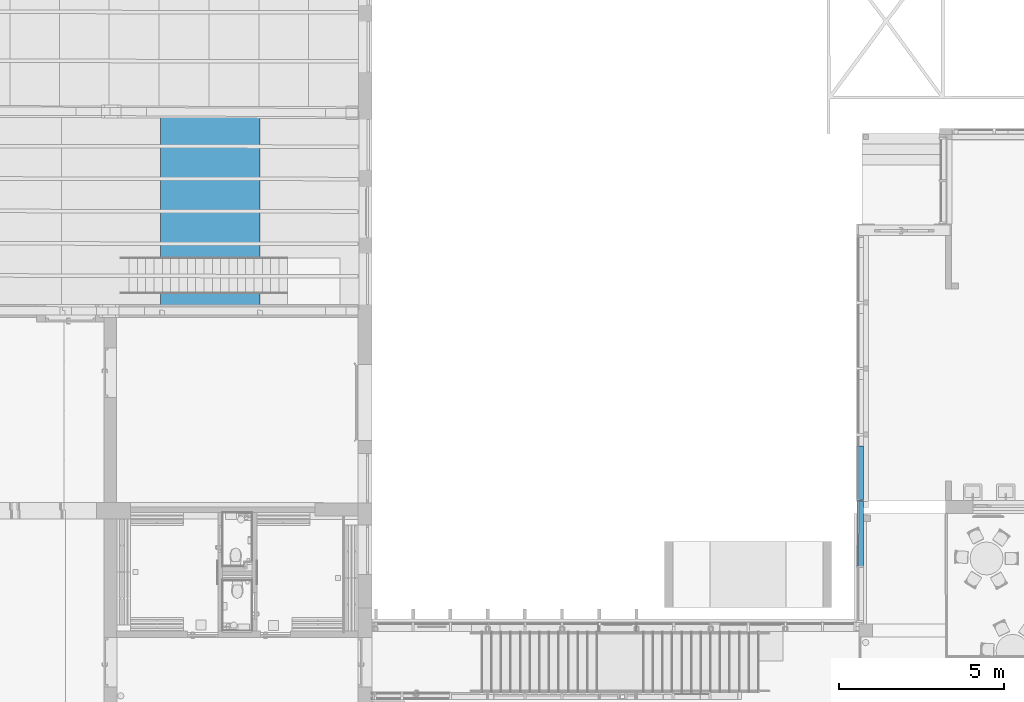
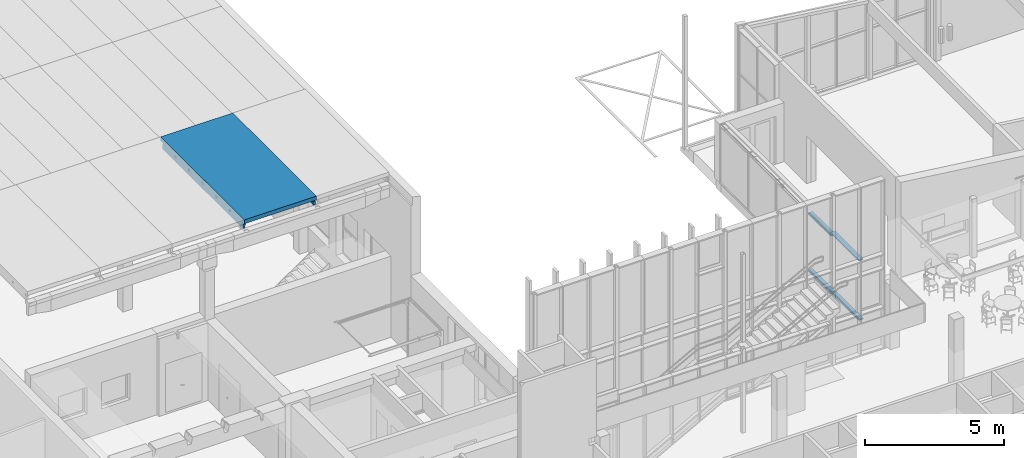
# One storey, part 38 of 301: 4 members, 1 beam, 2 elements without a shape of their own.
"""IFC2X3 building model written with IfcOpenShell, lengths in millimetres."""

from ifc_helpers import new_model, entity, si_unit, converted_unit, derived_unit, money_unit, direction, frame, origin_with_axes, place, context, subcontext, project, spatial, faceted_brep, material, type_object, element, aggregate, save


model = new_model("IFC2X3")

# Units and contexts
model_context = context("Model", 3, precision=0.01, world=origin_with_axes(), true_north=direction((0.0, 1.0)))
body_context = subcontext(model_context, "Body", "Model", "MODEL_VIEW")
ifc_project = project(units=[si_unit("LENGTHUNIT", "METRE", prefix="MILLI"), si_unit("AREAUNIT", "SQUARE_METRE"), si_unit("VOLUMEUNIT", "CUBIC_METRE"), converted_unit("PLANEANGLEUNIT", "DEGREE", entity("IfcPlaneAngleMeasure", 0.0174532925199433), si_unit("PLANEANGLEUNIT", "RADIAN"), dimensions=[0, 0, 0, 0, 0, 0, 0]), money_unit("EUR"), converted_unit("TIMEUNIT", "Year", entity("IfcTimeMeasure", 31557600.0), si_unit("TIMEUNIT", "SECOND"), dimensions=[0, 0, 1, 0, 0, 0, 0]), si_unit("MASSUNIT", "GRAM", prefix="KILO"), si_unit("THERMODYNAMICTEMPERATUREUNIT", "DEGREE_CELSIUS"), si_unit("LUMINOUSINTENSITYUNIT", "LUMEN"), si_unit("ENERGYUNIT", "JOULE", prefix="MEGA"), derived_unit("THERMALCONDUCTANCEUNIT", [(si_unit("POWERUNIT", "WATT"), 1), (si_unit("LENGTHUNIT", "METRE"), -1), (si_unit("THERMODYNAMICTEMPERATUREUNIT", "KELVIN"), -1)]), derived_unit("SPECIFICHEATCAPACITYUNIT", [(si_unit("ENERGYUNIT", "JOULE"), 1), (si_unit("MASSUNIT", "GRAM", prefix="KILO"), -1), (si_unit("THERMODYNAMICTEMPERATUREUNIT", "KELVIN"), -1)]), derived_unit("MASSDENSITYUNIT", [(si_unit("MASSUNIT", "GRAM", prefix="KILO"), 1), (si_unit("VOLUMEUNIT", "CUBIC_METRE"), -1)])], contexts=[model_context])

# Site, building, storey
site_placement = place(None, frame((0.0, 0.0, 8650.0), z_axis=(0.0, 0.0, 1.0), x_axis=(1.0, 0.0, 0.0)))
site = spatial("IfcSite", under=ifc_project, at=site_placement, Name="43301:001:0844", CompositionType="ELEMENT")
building_placement = place(site_placement, origin_with_axes())
building = spatial("IfcBuilding", under=site, at=building_placement, Name="Kuressaare Ametikooli tuulikute mehaanikute õppekorpus", CompositionType="ELEMENT")
storey_placement = place(building_placement, origin_with_axes())
storey = spatial("IfcBuildingStorey", under=building, at=storey_placement, Name="1.korrus", CompositionType="ELEMENT", Elevation=0.0)

# Curtain wall, members
curtain_wall_type = type_object("IfcCurtainWallType", Name="Curtain Wall Type", PredefinedType="NOTDEFINED")
curtain_wall_1_placement = place(storey_placement, frame((118335.7921529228, 29489.81776331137, 34.99994345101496), z_axis=(0.0, 0.0, 1.0), x_axis=(1.0, 0.0, 0.0)))
curtain_wall_1 = element("IfcCurtainWall", 1, at=curtain_wall_1_placement, inside=storey, type_object=curtain_wall_type, Name="KF-1.2")
ifc_material_1 = material(Name="Aluminium")
member_type_1 = type_object("IfcMemberType", Name="Boundary Frame 50 x 200", PredefinedType="NOTDEFINED")
member_1_placement = place(curtain_wall_1_placement, frame((3.771415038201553, 2824.557290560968, 0.0), z_axis=(-0.001335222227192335, -0.9999991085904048, 0.0), x_axis=(0.0, 0.0, 1.0)))
member_1 = element("IfcMember", 2, at=member_1_placement, type_object=member_type_1, material=ifc_material_1, context=body_context, shape_type="Brep", body=[
    faceted_brep([(5.000000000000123, -20.00000000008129, 1990.000000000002), (5.000000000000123, 19.99999999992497, 1989.999999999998), (25.00000000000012, 19.99999999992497, 1989.999999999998), (25.00000000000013, 39.99999999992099, 1990.000000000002), (-24.99999999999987, 39.99999999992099, 1990.000000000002), (-24.99999999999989, -160.0000000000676, 1989.999999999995), (25.00000000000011, -160.0000000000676, 1989.999999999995), (25.00000000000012, -20.00000000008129, 1990.000000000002), (4.999999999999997, -19.99999999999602, 5.000000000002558), (5.000000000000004, 19.99999999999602, 5.000000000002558), (25.0, 19.99999999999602, 24.99999999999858), (25.00000000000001, 40.00000000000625, 25.00000000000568), (-24.99999999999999, 40.00000000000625, -24.99999999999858), (-25.00000000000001, -160.0000000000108, -25.00000000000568), (24.99999999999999, -159.9999999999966, 24.99999999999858), (25.0, -19.99999999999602, 24.99999999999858)], [[[0, 1, 2, 3, 4, 5, 6, 7]], [[1, 0, 8, 9]], [[10, 2, 1, 9]], [[2, 10, 11, 3]], [[4, 3, 11, 12]], [[5, 4, 12, 13]], [[6, 5, 13, 14]], [[15, 7, 6, 14]], [[0, 7, 15, 8]], [[8, 15, 14, 13, 12, 11, 10, 9]]]),
])
member_2_placement = place(curtain_wall_1_placement, frame((1.114322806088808, 834.5590644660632, 2610.000013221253), z_axis=(0.001335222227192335, 0.9999991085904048, 0.0), x_axis=(0.0, 0.0, -1.0)))
member_2 = element("IfcMember", 3, at=member_2_placement, type_object=member_type_1, material=ifc_material_1, context=body_context, shape_type="Brep", body=[
    faceted_brep([(5.000000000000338, -19.99999999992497, 1984.999999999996), (5.000000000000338, 20.00000000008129, 1984.999999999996), (24.99999999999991, 20.00000000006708, 1965.0), (24.99999999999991, 40.00000000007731, 1964.999999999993), (-24.99999999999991, 40.00000000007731, 2014.999999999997), (-24.99999999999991, -159.9999999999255, 2015.000000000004), (24.99999999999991, -159.9999999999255, 1965.0), (24.99999999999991, -19.99999999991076, 1965.0), (4.999999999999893, -19.99999999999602, -9.212186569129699e-08), (4.999999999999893, 19.99999999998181, -9.211831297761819e-08), (24.99999999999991, 19.99999999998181, -9.211831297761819e-08), (24.99999999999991, 39.99999999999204, -9.212186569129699e-08), (-24.99999999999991, 39.99999999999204, -9.212186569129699e-08), (-24.99999999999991, -159.9999999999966, -9.211476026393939e-08), (24.99999999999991, -159.9999999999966, -9.211476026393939e-08), (24.99999999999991, -19.99999999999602, -9.212186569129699e-08)], [[[0, 1, 2, 3, 4, 5, 6, 7]], [[1, 0, 8, 9]], [[10, 2, 1, 9]], [[2, 10, 11, 3]], [[12, 4, 3, 11]], [[13, 5, 4, 12]], [[14, 6, 5, 13]], [[15, 7, 6, 14]], [[0, 7, 15, 8]], [[8, 15, 14, 13, 12, 11, 10, 9]]]),
])
aggregate(curtain_wall_1, [member_1, member_2])

curtain_wall_2_placement = place(storey_placement, frame((118344.5490393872, 39517.28066569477, -20.0), z_axis=(0.0, 0.0, 1.0), x_axis=(1.0, 0.0, 0.0)))
curtain_wall_2 = element("IfcCurtainWall", 4, at=curtain_wall_2_placement, inside=storey, type_object=curtain_wall_type, Name="KF-XX")
ifc_material_2 = material(Name="Metall - Alumiinium")
member_3_placement = place(curtain_wall_2_placement, frame((0.0, -5550.01966278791, 0.0), z_axis=(0.0, -1.0, 0.0), x_axis=(0.0, 0.0, 1.0)))
member_3 = element("IfcMember", 5, at=member_3_placement, type_object=member_type_1, material=ifc_material_2, context=body_context, shape_type="Brep", body=[
    faceted_brep([(35.00000000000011, -10.00000000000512, 1652.647103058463), (35.00000000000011, 10.00000000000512, 1652.647103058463), (50.00000000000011, 10.00000000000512, 1652.647103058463), (50.00000000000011, 49.99999999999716, 1652.647103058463), (0.0, 49.99999999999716, 1652.647103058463), (0.0, 0.0, 1652.647103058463), (0.0, -150.0000000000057, 1652.647103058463), (50.0000000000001, -150.0000000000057, 1652.647103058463), (50.00000000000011, -10.00000000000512, 1652.647103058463), (35.0, -10.00000000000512, 0.0), (35.0, 10.00000000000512, 0.0), (50.0, 10.00000000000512, 0.0), (50.0, 49.99999999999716, 0.0), (0.0, 49.99999999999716, 0.0), (0.0, 0.0, 0.0), (0.0, -150.0000000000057, 0.0), (49.99999999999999, -150.0000000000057, 0.0), (50.0, -10.00000000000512, 0.0)], [[[0, 1, 2, 3, 4, 5, 6, 7, 8]], [[1, 0, 9, 10]], [[11, 2, 1, 10]], [[2, 11, 12, 3]], [[13, 4, 3, 12]], [[14, 5, 4, 13]], [[15, 6, 5, 14]], [[16, 7, 6, 15]], [[17, 8, 7, 16]], [[0, 8, 17, 9]], [[9, 17, 16, 15, 14, 13, 12, 11, 10]]]),
])
member_type_2 = type_object("IfcMemberType", Name="Transom Frame 50 x 200", PredefinedType="NOTDEFINED")
member_4_placement = place(curtain_wall_2_placement, frame((0.0, -5550.01966278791, 2530.000039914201), z_axis=(0.0, -1.0, 0.0), x_axis=(0.0, 0.0, 1.0)))
member_4 = element("IfcMember", 6, at=member_4_placement, type_object=member_type_2, material=ifc_material_2, context=body_context, shape_type="Brep", body=[
    faceted_brep([(-9.999999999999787, -10.00000000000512, 1627.647103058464), (-24.99999999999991, -10.00000000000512, 1627.647103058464), (-24.99999999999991, -150.0000000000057, 1627.647103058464), (24.99999999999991, -150.0000000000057, 1627.647103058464), (24.99999999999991, -10.00000000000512, 1627.647103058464), (10.00000000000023, -10.00000000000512, 1627.647103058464), (10.00000000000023, 10.00000000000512, 1627.647103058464), (24.99999999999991, 10.00000000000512, 1627.647103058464), (24.99999999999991, 49.99999999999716, 1627.647103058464), (-24.99999999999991, 49.99999999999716, 1627.647103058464), (-24.99999999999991, 10.00000000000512, 1627.647103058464), (-9.999999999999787, 10.00000000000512, 1627.647103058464), (-9.999999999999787, -10.00000000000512, 0.0), (-24.99999999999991, -10.00000000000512, 0.0), (-24.99999999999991, -150.0000000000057, 0.0), (24.99999999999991, -150.0000000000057, 0.0), (24.99999999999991, -10.00000000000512, 0.0), (9.999999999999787, -10.00000000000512, 0.0), (9.999999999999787, 10.00000000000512, 0.0), (24.99999999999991, 10.00000000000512, 0.0), (24.99999999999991, 49.99999999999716, 0.0), (-24.99999999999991, 49.99999999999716, 0.0), (-24.99999999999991, 10.00000000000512, 0.0), (-9.999999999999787, 10.00000000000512, 0.0)], [[[0, 1, 2, 3, 4, 5, 6, 7, 8, 9, 10, 11]], [[1, 0, 12, 13]], [[1, 13, 14, 2]], [[3, 2, 14, 15]], [[4, 3, 15, 16]], [[4, 16, 17, 5]], [[5, 17, 18, 6]], [[7, 6, 18, 19]], [[19, 20, 8, 7]], [[9, 8, 20, 21]], [[22, 10, 9, 21]], [[11, 10, 22, 23]], [[0, 11, 23, 12]], [[23, 22, 21, 20, 19, 18, 17, 16, 15, 14, 13, 12]]]),
])
aggregate(curtain_wall_2, [member_3, member_4])

# Beam
ifc_material_3 = material(Name="GENEERILINE - KONSTRUKTRIOON")
beam_type = type_object("IfcBeamType", Name="Precast Double Tee 4 3000 x 440", PredefinedType="NOTDEFINED")
beam_placement = place(storey_placement, frame((98758.75644683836, 44085.15228588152, 7100.0), z_axis=(0.0, 0.0, 1.0), x_axis=(-1.0, 0.0, 0.0)))
element("IfcBeam", 7, at=beam_placement, inside=storey, type_object=beam_type, material=ifc_material_3, context=body_context, shape_type="Brep", body=[
    faceted_brep([(1500.0, 196.1455597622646, -180.532857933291), (1500.0, 164.4729010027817, -221.5483087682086), (1500.0, 138.8807642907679, -266.6089685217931), (1500.0, 138.8802391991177, -440.0001340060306), (1500.0, 5922.625349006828, -440.0001340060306), (1500.0, 5922.624826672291, -267.5188171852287), (1500.0, 5897.032776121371, -222.4581574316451), (1500.0, 5865.360223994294, -181.4427065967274), (1500.0, 5854.397650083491, -169.9098486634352), (1500.0, 6017.898995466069, -169.9098486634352), (1500.0, 6017.898995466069, 0.0), (1500.0, 0.0, 0.0), (1500.0, 0.0, -168.9999999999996), (1500.0, 207.1081705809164, -168.9999999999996), (1500.0, 1119.311111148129, -169.8331663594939), (1500.0, 1111.112253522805, -175.4075010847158), (1500.0, 1106.537634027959, -184.2033640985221), (1500.0, 1085.797648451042, -271.7806445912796), (1500.0, 1045.797594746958, -271.7806445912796), (1500.0, 1025.056647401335, -184.2031688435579), (1500.0, 1020.482007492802, -175.4074260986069), (1500.0, 1012.283216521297, -169.8331663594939), (1500.0, 2090.529502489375, -175.4075010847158), (1500.0, 2085.954882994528, -184.2033640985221), (1500.0, 2065.214897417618, -271.7806445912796), (1500.0, 2025.214843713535, -271.7806445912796), (1500.0, 2004.473896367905, -184.2031688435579), (1500.0, 1999.899256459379, -175.4074260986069), (1500.0, 1991.700465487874, -169.8331663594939), (1500.0, 2098.728360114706, -169.8331663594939), (1500.0, 3066.743085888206, -184.2033640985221), (1500.0, 3046.003100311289, -271.7806445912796), (1500.0, 3006.003046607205, -271.7806445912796), (1500.0, 2985.262099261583, -184.2031688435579), (1500.0, 2980.687459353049, -175.4074260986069), (1500.0, 2972.488668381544, -169.8331663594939), (1500.0, 3079.516563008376, -169.8331663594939), (1500.0, 3071.317705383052, -175.4075010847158), (1500.0, 4025.75527918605, -271.7806445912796), (1500.0, 3985.755225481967, -271.7806445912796), (1500.0, 3965.014278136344, -184.2031688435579), (1500.0, 3960.439638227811, -175.4074260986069), (1500.0, 3952.240847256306, -169.8331663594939), (1500.0, 4059.268741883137, -169.8331663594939), (1500.0, 4051.069884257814, -175.4075010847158), (1500.0, 4046.495264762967, -184.2033640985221), (1500.0, 4960.455377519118, -271.7806445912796), (1500.0, 4939.71438396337, -184.2031688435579), (1500.0, 4935.139733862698, -175.4074260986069), (1500.0, 4926.940924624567, -169.8331663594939), (1500.0, 5033.969057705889, -169.8331663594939), (1500.0, 5025.77018181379, -175.4075010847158), (1500.0, 5021.195552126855, -184.2033640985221), (1500.0, 5000.455520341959, -271.7806445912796), (1365.910046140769, 196.6001059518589, -180.532857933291), (1371.752641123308, 193.8469931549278, -184.0724353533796), (1384.30381979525, 181.3927414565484, -200.1453415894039), (1390.327470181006, 166.3273237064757, -219.628309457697), (1390.629556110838, 164.8436515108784, -221.5483087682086), (1397.719241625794, 139.2274817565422, -266.6089685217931), (1424.999996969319, 139.1344787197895, -440.0001340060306), (1424.999996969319, 5922.78893984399, -440.0001340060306), (1397.862394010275, 5922.847610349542, -267.5188171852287), (1390.772708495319, 5897.271023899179, -222.4581574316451), (1384.303819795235, 5880.054948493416, -200.1453415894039), (1371.752641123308, 5867.670662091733, -184.0724353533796), (1367.411885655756, 5865.649426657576, -181.4427065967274), (1390.327470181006, 5895.086757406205, -219.628309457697), (1354.310838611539, 5858.133558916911, -173.505793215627), (1334.723493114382, 5854.758153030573, -169.9098486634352), (1334.723493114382, 6017.898995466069, -169.9098486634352), (1334.253143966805, 6017.898995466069, -169.8234995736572), (1127.640522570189, 6017.898995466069, -169.9098486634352), (-1500.0, 6017.898995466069, -169.9098486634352), (-1500.0, 6017.898995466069, 0.0), (-1500.0, 0.0, 0.0), (-1500.0, 0.0, -168.9999999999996), (-1500.0, 217.2777509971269, -168.9999999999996), (-1370.461247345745, 205.876021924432, -180.532857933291), (-1370.286968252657, 206.0605877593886, -180.338069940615), (-1354.45241394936, 213.517067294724, -172.4372542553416), (-1336.819669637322, 214.8806931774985, -170.9398142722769), (1334.253143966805, 206.887247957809, -169.8234995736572), (1354.310838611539, 203.3190341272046, -173.505793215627), (-1500.0, 206.3151401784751, -180.532857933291), (1334.253120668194, 1119.582713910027, -169.8331663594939), (1354.310838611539, 1114.148063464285, -173.505793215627), (1357.449888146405, 1111.345844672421, -175.4075010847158), (1371.752641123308, 1106.815882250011, -184.0724353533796), (1371.854882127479, 1106.74762029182, -184.2033640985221), (1384.30381979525, 1102.951853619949, -200.1453415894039), (1390.327470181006, 1098.328041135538, -219.628309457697), (1398.532934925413, 1085.963918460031, -271.7806445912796), (1398.532934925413, 1045.963864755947, -271.7806445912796), (1371.854729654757, 1025.266633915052, -184.2031688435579), (1390.327470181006, 1033.62608881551, -219.628309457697), (1384.30381979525, 1029.021814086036, -200.1453415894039), (1371.752641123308, 1025.198807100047, -184.0724353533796), (1357.44976437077, 1020.71559884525, -175.4074260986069), (1354.310838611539, 1017.923762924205, -173.505793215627), (1334.253143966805, 1012.554819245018, -169.8331663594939), (-1500.0, 1124.227090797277, -169.8331663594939), (-1500.0, 1017.199196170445, -169.8331663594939), (1371.752641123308, 2086.233131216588, -184.0724353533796), (1371.854882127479, 2086.164869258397, -184.2033640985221), (1357.449888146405, 2090.763093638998, -175.4075010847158), (1390.327470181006, 2077.745290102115, -219.628309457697), (1398.532934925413, 2065.381167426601, -271.7806445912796), (1384.30381979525, 2082.369102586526, -200.1453415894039), (1398.532934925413, 2025.381113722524, -271.7806445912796), (1390.327470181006, 2013.043337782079, -219.628309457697), (1384.30381979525, 2008.439063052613, -200.1453415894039), (1371.854729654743, 2004.683882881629, -184.2031688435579), (1357.44976437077, 2000.13284781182, -175.4074260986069), (1371.752641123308, 2004.616056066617, -184.0724353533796), (1334.253124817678, 1991.972068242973, -169.8331663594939), (1354.310838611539, 1997.341011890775, -173.505793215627), (1334.253120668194, 2098.999962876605, -169.8331663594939), (-1500.0, 1996.616445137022, -169.8331663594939), (-1500.0, 2103.644339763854, -169.8331663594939), (1354.310838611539, 2093.565312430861, -173.505793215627), (1398.532934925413, 3046.169370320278, -271.7806445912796), (1371.854882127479, 3066.953072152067, -184.2033640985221), (1384.30381979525, 3063.157305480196, -200.1453415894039), (1390.327470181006, 3058.533492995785, -219.628309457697), (1398.532934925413, 3006.169316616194, -271.7806445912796), (1390.327470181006, 2993.831540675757, -219.628309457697), (1384.30381979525, 2989.227265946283, -200.1453415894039), (1371.854729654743, 2985.4720857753, -184.2031688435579), (1371.752641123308, 2985.404258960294, -184.0724353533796), (1357.44976437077, 2980.921050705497, -175.4074260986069), (1354.310838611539, 2978.129214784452, -173.505793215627), (1334.253125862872, 2972.76027113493, -169.8331663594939), (-1500.0, 2977.404648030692, -169.8331663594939), (-1500.0, 3084.432542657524, -169.8331663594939), (1334.253120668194, 3079.788165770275, -169.8331663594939), (1357.449888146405, 3071.551296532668, -175.4075010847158), (1354.310838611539, 3074.353515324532, -173.505793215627), (1371.752641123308, 3067.021334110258, -184.0724353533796), (1398.532934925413, 4025.92154919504, -271.7806445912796), (1398.532934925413, 3985.921495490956, -271.7806445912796), (1390.327470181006, 3973.583719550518, -219.628309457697), (1384.30381979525, 3968.979444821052, -200.1453415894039), (1371.854729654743, 3965.224264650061, -184.2031688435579), (1371.752641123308, 3965.156437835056, -184.0724353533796), (1357.44976437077, 3960.673229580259, -175.4074260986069), (1354.310838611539, 3957.881393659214, -173.505793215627), (1334.253127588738, 3952.512450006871, -169.8331663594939), (-1500.0, 3957.156826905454, -169.8331663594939), (-1500.0, 4064.184721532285, -169.8331663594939), (1334.253120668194, 4059.540344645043, -169.8331663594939), (1354.310838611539, 4054.105694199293, -173.505793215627), (1357.449888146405, 4051.303475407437, -175.4075010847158), (1371.752641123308, 4046.773512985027, -184.0724353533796), (1371.854882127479, 4046.705251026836, -184.2033640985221), (1384.30381979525, 4042.909484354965, -200.1453415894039), (1390.327470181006, 4038.285671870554, -219.628309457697), (1390.327470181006, 4948.397205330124, -219.628309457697), (1384.30381979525, 4943.799146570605, -200.1453415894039), (1371.854729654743, 4940.056825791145, -184.2031688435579), (1398.532934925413, 4960.726527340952, -271.7806445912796), (1371.752641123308, 4939.989104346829, -184.0724353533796), (1357.44976437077, 4935.520669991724, -175.4074260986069), (1354.310838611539, 4932.73207233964, -173.505793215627), (1334.253130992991, 4927.383848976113, -169.8331663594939), (-1500.0, 4934.957806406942, -169.8331663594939), (-1500.0, 5041.985939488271, -169.8331663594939), (1334.253113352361, 5034.411982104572, -169.8331663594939), (1354.310838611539, 5028.956587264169, -173.505793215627), (1357.449888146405, 5026.151117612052, -175.4075010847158), (1371.752641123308, 5021.606361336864, -184.0724353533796), (1371.854882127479, 5021.537993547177, -184.2033640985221), (1384.303819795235, 5017.729350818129, -200.1453415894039), (1390.327470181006, 5013.099301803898, -219.628309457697), (1398.532934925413, 5000.726670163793, -271.7806445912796), (-1336.819669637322, 5039.922187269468, -170.9398142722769), (-1336.819669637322, 5861.56438778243, -170.9398142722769), (1127.640522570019, 5855.209844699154, -169.9098486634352), (-1500.0, 5860.94128330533, -169.9098486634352), (-1500.0, 5871.903857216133, -181.4427065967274), (-1500.0, 5903.576409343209, -222.4581574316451), (-1500.0, 5929.168459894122, -267.5188171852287), (-1500.0, 5929.168982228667, -440.0001340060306), (-1500.0, 149.0498196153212, -440.0001340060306), (-1500.0, 149.0503447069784, -266.6089685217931), (-1500.0, 174.6424814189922, -221.5483087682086), (-1500.0, 1025.39798714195, -175.4074260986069), (-1500.0, 1029.972627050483, -184.2031688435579), (-1500.0, 1050.713574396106, -271.7806445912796), (-1500.0, 1090.71362810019, -271.7806445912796), (-1500.0, 1111.453613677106, -184.2033640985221), (-1500.0, 1116.028233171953, -175.4075010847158), (-1500.0, 2009.389876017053, -184.2031688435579), (-1500.0, 2030.130823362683, -271.7806445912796), (-1500.0, 2070.130877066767, -271.7806445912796), (-1500.0, 2090.870862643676, -184.2033640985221), (-1500.0, 2095.445482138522, -175.4075010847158), (-1500.0, 2004.815236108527, -175.4074260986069), (-1500.0, 3010.919026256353, -271.7806445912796), (-1500.0, 3050.919079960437, -271.7806445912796), (-1500.0, 3071.659065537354, -184.2033640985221), (-1500.0, 3076.2336850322, -175.4075010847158), (-1500.0, 2985.603439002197, -175.4074260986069), (-1500.0, 2990.178078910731, -184.2031688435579), (-1500.0, 4030.671258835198, -271.7806445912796), (-1500.0, 4051.411244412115, -184.2033640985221), (-1500.0, 4055.985863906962, -175.4075010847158), (-1500.0, 3965.355617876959, -175.4074260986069), (-1500.0, 3969.930257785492, -184.2031688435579), (-1500.0, 3990.671205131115, -271.7806445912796), (-1500.0, 5029.21243390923, -184.2033640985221), (-1500.0, 5033.787063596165, -175.4075010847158), (-1500.0, 4943.156615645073, -175.4074260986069), (-1500.0, 4947.731265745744, -184.2031688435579), (-1500.0, 4968.472259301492, -271.7806445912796), (-1500.0, 5008.472402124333, -271.7806445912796), (-1370.286968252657, 1027.749844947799, -180.338069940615), (-1382.086528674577, 195.8818158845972, -193.5261847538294), (-1382.086528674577, 1031.987374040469, -193.5261847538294), (-1373.745117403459, 1029.765738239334, -184.2031688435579), (-1360.405134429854, 1025.169238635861, -175.4074260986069), (-1354.45241394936, 1020.790864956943, -172.4372542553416), (-1336.819669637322, 1018.559490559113, -170.9398142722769), (-1388.184278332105, 183.0741399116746, -210.1386333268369), (-1390.259892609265, 174.2704778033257, -221.5483087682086), (-1360.405284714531, 1115.799484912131, -175.4075010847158), (-1354.45241394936, 1120.158436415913, -172.4372542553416), (-1336.819669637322, 1122.332010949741, -170.9398142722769), (-1336.819669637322, 1997.97673952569, -170.9398142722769), (-1354.45241394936, 2000.208113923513, -172.4372542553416), (-1360.40513442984, 2004.586487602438, -175.4074260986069), (-1360.405284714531, 2095.216733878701, -175.4075010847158), (-1354.45241394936, 2099.575685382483, -172.4372542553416), (-1336.819669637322, 2101.749259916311, -170.9398142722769), (-1336.819669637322, 2978.764942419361, -170.9398142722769), (-1354.45241394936, 2980.99631681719, -172.4372542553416), (-1360.40513442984, 2985.374690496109, -175.4074260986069), (-1354.45241394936, 3080.36388827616, -172.4372542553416), (-1336.819669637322, 3082.537462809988, -170.9398142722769), (-1360.405284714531, 3076.004936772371, -175.4075010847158), (-1354.45241394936, 3960.748495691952, -172.4372542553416), (-1360.40513442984, 3965.12686937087, -175.4074260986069), (-1336.819669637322, 3958.517121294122, -170.9398142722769), (-1336.819669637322, 4062.28964168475, -170.9398142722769), (-1360.405284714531, 4055.757115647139, -175.4075010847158), (-1354.45241394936, 4060.116067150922, -172.4372542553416), (-1360.40513442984, 4942.783577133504, -175.4074260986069), (-1336.819669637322, 4936.149435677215, -170.9398142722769), (-1354.45241394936, 4938.399040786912, -172.4372542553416), (-1360.405284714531, 5033.414025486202, -175.4075010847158), (-1354.45241394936, 5037.766833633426, -172.4372542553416), (-1354.45241394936, 5863.026242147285, -172.4372542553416), (-1371.275299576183, 5871.623081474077, -181.4427065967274), (-1370.286968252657, 5870.570911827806, -180.338069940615), (-1388.184278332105, 5893.819252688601, -210.1386333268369), (-1390.425409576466, 5903.337404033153, -222.4581574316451), (-1382.086528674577, 5880.977648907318, -193.5261847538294), (-1398.622710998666, 5928.94733462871, -267.5188171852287), (-1430.000000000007, 5929.016297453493, -440.0001340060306), (-1430.000000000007, 148.8125294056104, -440.0001340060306), (-1398.457194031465, 148.7061287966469, -266.6089685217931), (-1388.184278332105, 1035.931687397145, -210.1386333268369), (-1399.398009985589, 1050.548721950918, -271.7806445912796), (-1399.398009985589, 1090.548775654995, -271.7806445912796), (-1388.184278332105, 1105.128414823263, -210.1386333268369), (-1382.086528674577, 1109.052570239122, -193.5261847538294), (-1373.745292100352, 1111.246725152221, -184.2033640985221), (-1370.286968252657, 1113.251349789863, -180.338069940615), (-1373.745117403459, 2009.182987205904, -184.2031688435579), (-1382.086528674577, 2011.404623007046, -193.5261847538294), (-1388.184278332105, 2015.348936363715, -210.1386333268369), (-1399.398009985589, 2029.965970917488, -271.7806445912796), (-1399.398009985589, 2069.966024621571, -271.7806445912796), (-1388.184278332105, 2084.545663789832, -210.1386333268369), (-1382.086528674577, 2088.469819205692, -193.5261847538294), (-1373.745292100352, 2090.663974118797, -184.2033640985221), (-1370.286968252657, 2092.66859875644, -180.338069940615), (-1370.286968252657, 2007.167093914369, -180.338069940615), (-1399.398009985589, 3010.754173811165, -271.7806445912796), (-1399.398009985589, 3050.754227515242, -271.7806445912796), (-1388.184278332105, 3065.33386668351, -210.1386333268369), (-1382.086528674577, 3069.258022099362, -193.5261847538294), (-1373.745292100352, 3071.452177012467, -184.2033640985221), (-1370.286968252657, 3073.45680165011, -180.338069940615), (-1370.286968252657, 2987.955296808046, -180.338069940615), (-1373.745117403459, 2989.971190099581, -184.2031688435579), (-1382.086528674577, 2992.192825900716, -193.5261847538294), (-1388.184278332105, 2996.137139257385, -210.1386333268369), (-1382.086528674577, 4049.010200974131, -193.5261847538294), (-1373.745292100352, 4051.204355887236, -184.2033640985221), (-1399.398009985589, 4030.50640639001, -271.7806445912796), (-1388.184278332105, 4045.086045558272, -210.1386333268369), (-1370.286968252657, 4053.208980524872, -180.338069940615), (-1370.286968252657, 3967.707475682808, -180.338069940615), (-1373.745117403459, 3969.723368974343, -184.2031688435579), (-1388.184278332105, 3975.889318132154, -210.1386333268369), (-1399.398009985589, 3990.506352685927, -271.7806445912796), (-1382.086528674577, 3971.945004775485, -193.5261847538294), (-1373.745292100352, 5028.875044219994, -184.2033640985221), (-1370.286968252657, 5030.876098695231, -180.338069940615), (-1373.745117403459, 4947.393875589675, -184.2031688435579), (-1370.286968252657, 4945.374403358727, -180.338069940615), (-1399.398009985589, 4968.203421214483, -271.7806445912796), (-1382.086528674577, 4949.624138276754, -193.5261847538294), (-1388.184278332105, 4953.574763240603, -210.1386333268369), (-1399.398009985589, 5008.203564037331, -271.7806445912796), (-1388.184278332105, 5022.77164483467, -210.1386333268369), (-1382.086528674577, 5026.68950617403, -193.5261847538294)], [[[0, 1, 2, 3, 4, 5, 6, 7, 8, 9, 10, 11, 12, 13], [14, 15, 16, 17, 18, 19, 20, 21], [22, 23, 24, 25, 26, 27, 28, 29], [30, 31, 32, 33, 34, 35, 36, 37], [38, 39, 40, 41, 42, 43, 44, 45], [46, 47, 48, 49, 50, 51, 52, 53]], [[1, 0, 54, 55, 56, 57, 58]], [[1, 58, 59, 2]], [[2, 59, 60, 3]], [[61, 4, 3, 60]], [[61, 62, 5, 4]], [[62, 63, 6, 5]], [[64, 65, 66, 7, 6, 63, 67]], [[8, 7, 66, 68, 69]], [[69, 70, 9, 8]], [[71, 72, 73, 74, 10, 9, 70]], [[75, 11, 10, 74]], [[75, 76, 12, 11]], [[13, 12, 76, 77]], [[78, 79, 80, 81, 82, 83, 54, 0, 13, 77, 84]], [[85, 86, 87, 15, 14]], [[87, 88, 89, 16, 15]], [[90, 91, 92, 17, 16, 89]], [[17, 92, 93, 18]], [[94, 19, 18, 93, 95, 96]], [[97, 98, 20, 19, 94]], [[99, 100, 21, 20, 98]], [[101, 85, 14, 21, 100, 102]], [[103, 104, 23, 22, 105]], [[106, 107, 24, 23, 104, 108]], [[107, 109, 25, 24]], [[26, 25, 109, 110, 111, 112]], [[113, 27, 26, 112, 114]], [[115, 28, 27, 113, 116]], [[117, 29, 28, 115, 118, 119]], [[120, 105, 22, 29, 117]], [[121, 31, 30, 122, 123, 124]], [[125, 32, 31, 121]], [[32, 125, 126, 127, 128, 33]], [[34, 33, 128, 129, 130]], [[35, 34, 130, 131, 132]], [[36, 35, 132, 133, 134, 135]], [[136, 37, 36, 135, 137]], [[122, 30, 37, 136, 138]], [[39, 38, 139, 140]], [[140, 141, 142, 143, 40, 39]], [[40, 143, 144, 145, 41]], [[41, 145, 146, 147, 42]], [[42, 147, 148, 149, 150, 43]], [[44, 43, 150, 151, 152]], [[45, 44, 152, 153, 154]], [[38, 45, 154, 155, 156, 139]], [[157, 158, 159, 47, 46, 160]], [[159, 161, 162, 48, 47]], [[162, 163, 164, 49, 48]], [[164, 165, 166, 167, 50, 49]], [[50, 167, 168, 169, 51]], [[51, 169, 170, 171, 52]], [[52, 171, 172, 173, 174, 53]], [[53, 174, 160, 46]], [[97, 55, 54, 83, 99, 98]], [[94, 96, 56, 55, 97]], [[56, 96, 95, 57]], [[160, 174, 173, 67, 63, 62, 61, 60, 59, 58, 57, 95, 93, 92, 91, 110, 109, 107, 106, 126, 125, 121, 124, 141, 140, 139, 156, 157]], [[172, 171, 170, 65, 64]], [[170, 169, 168, 68, 66, 65]], [[67, 173, 172, 64]], [[68, 168, 167, 71, 70, 69]], [[71, 167, 175, 176, 177, 72]], [[178, 73, 72, 177]], [[77, 76, 75, 74, 73, 178, 179, 180, 181, 182, 183, 184, 185, 84], [186, 187, 188, 189, 190, 191, 101, 102], [192, 193, 194, 195, 196, 119, 118, 197], [198, 199, 200, 201, 134, 133, 202, 203], [204, 205, 206, 149, 148, 207, 208, 209], [210, 211, 166, 165, 212, 213, 214, 215]], [[216, 79, 78, 217, 218, 219]], [[220, 221, 80, 79, 216]], [[80, 221, 222, 81]], [[81, 222, 100, 82]], [[82, 100, 99, 83]], [[223, 217, 78, 84, 185, 224]], [[115, 116, 86, 85]], [[88, 87, 86, 116, 113, 114]], [[90, 89, 88, 114, 112, 111]], [[111, 110, 91, 90]], [[191, 225, 226, 227, 85, 101]], [[102, 100, 222, 221, 220, 186]], [[104, 103, 129, 128, 127, 108]], [[105, 120, 131, 130, 129, 103]], [[126, 106, 108, 127]], [[115, 228, 229, 230, 197, 118]], [[231, 232, 233, 117, 119, 196]], [[131, 120, 117, 132]], [[138, 144, 143, 142, 123, 122]], [[124, 123, 142, 141]], [[234, 235, 236, 202, 133, 132]], [[237, 238, 135, 134, 201, 239]], [[137, 135, 147, 146]], [[137, 146, 145, 144, 138, 136]], [[240, 241, 207, 148, 147, 242]], [[243, 150, 149, 206, 244, 245]], [[150, 164, 163, 151]], [[163, 162, 161, 153, 152, 151]], [[161, 159, 158, 155, 154, 153]], [[155, 158, 157, 156]], [[246, 212, 165, 164, 247, 248]], [[167, 166, 211, 249, 250, 175]], [[176, 175, 250, 251]], [[252, 179, 178, 177, 176, 251, 253]], [[254, 255, 180, 179, 252, 256]], [[181, 180, 255, 257]], [[182, 181, 257, 258]], [[182, 258, 259, 183]], [[260, 184, 183, 259]], [[224, 185, 184, 260]], [[187, 186, 220, 216, 219]], [[187, 219, 218, 261, 262, 188]], [[263, 189, 188, 262]], [[189, 263, 264, 265, 266, 190]], [[191, 190, 266, 267, 225]], [[268, 269, 270, 271, 193, 192]], [[194, 193, 271, 272]], [[272, 273, 274, 275, 195, 194]], [[195, 275, 276, 231, 196]], [[197, 230, 277, 268, 192]], [[198, 278, 279, 199]], [[280, 281, 282, 200, 199, 279]], [[282, 283, 239, 201, 200]], [[236, 284, 285, 203, 202]], [[286, 287, 278, 198, 203, 285]], [[288, 289, 205, 204, 290, 291]], [[292, 244, 206, 205, 289]], [[293, 294, 208, 207, 241]], [[295, 296, 209, 208, 294, 297]], [[296, 290, 204, 209]], [[249, 211, 210, 298, 299]], [[300, 213, 212, 246, 301]], [[302, 214, 213, 300, 303, 304]], [[305, 215, 214, 302]], [[298, 210, 215, 305, 306, 307]], [[223, 261, 218, 217]], [[254, 306, 305, 302, 304, 291, 290, 296, 295, 280, 279, 278, 287, 273, 272, 271, 270, 264, 263, 262, 261, 223, 224, 260, 259, 258, 257, 255]], [[228, 115, 85, 227]], [[226, 225, 267, 277, 230, 229]], [[229, 228, 227, 226]], [[231, 276, 284, 236, 235, 232]], [[234, 233, 232, 235]], [[132, 117, 233, 234]], [[238, 237, 240, 242]], [[135, 238, 242, 147]], [[283, 293, 241, 240, 237, 239]], [[243, 247, 164, 150]], [[301, 246, 248, 245, 244, 292]], [[245, 248, 247, 243]], [[250, 249, 299, 253, 251]], [[299, 298, 307, 256, 252, 253]], [[256, 307, 306, 254]], [[270, 269, 265, 264]], [[267, 266, 265, 269, 268, 277]], [[286, 274, 273, 287]], [[275, 274, 286, 285, 284, 276]], [[281, 280, 295, 297]], [[281, 297, 294, 293, 283, 282]], [[303, 300, 301, 292, 289, 288]], [[291, 304, 303, 288]]]),
])

save(model, "model.ifc")
